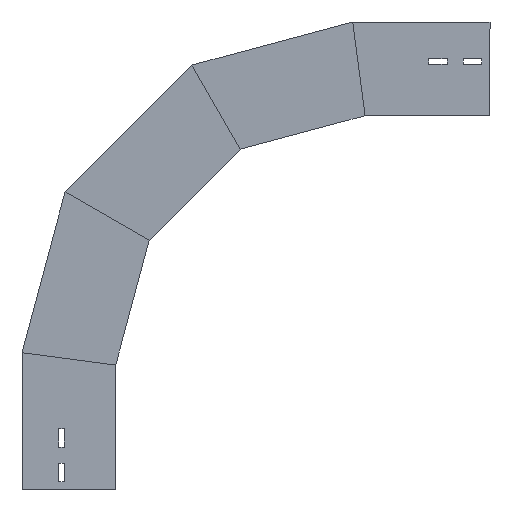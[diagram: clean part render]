
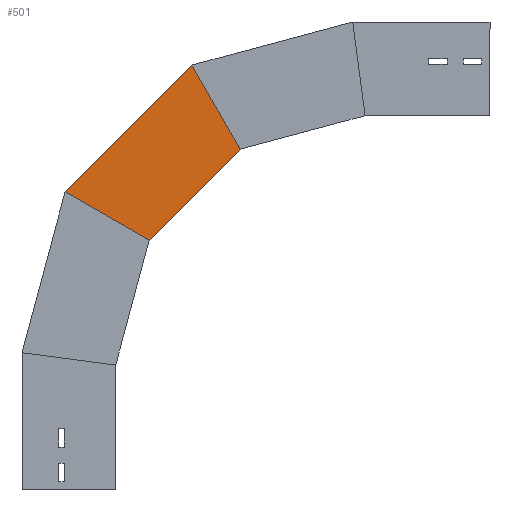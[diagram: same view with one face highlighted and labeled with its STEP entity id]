
A CAD part, left-side view. The second image highlights one B-rep face of the part: STEP entity #501.
In plain terms, the highlighted planar face has unit normal (-1, 0, 0) as drawn and (1, 0, 0) by its records, which use the part's own axes.
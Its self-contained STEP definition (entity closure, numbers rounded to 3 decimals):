
#101 = VECTOR ( 'NONE', #984, 1000. ) ;
#107 = DIRECTION ( 'NONE',  ( 0., 0., -1. ) ) ;
#111 = ORIENTED_EDGE ( 'NONE', *, *, #131, .F. ) ;
#131 = EDGE_CURVE ( 'NONE', #1518, #516, #1030, .T. ) ;
#221 = VECTOR ( 'NONE', #583, 1000. ) ;
#274 = VERTEX_POINT ( 'NONE', #1478 ) ;
#412 = DIRECTION ( 'NONE',  ( 0., -0.707, 0.707 ) ) ;
#477 = VECTOR ( 'NONE', #1654, 1000. ) ;
#501 = ADVANCED_FACE ( 'NONE', ( #1118 ), #851, .T. ) ;
#516 = VERTEX_POINT ( 'NONE', #1587 ) ;
#540 = LINE ( 'NONE', #817, #101 ) ;
#543 = CARTESIAN_POINT ( 'NONE',  ( 0., 62.95, 355.751 ) ) ;
#550 = EDGE_CURVE ( 'NONE', #1750, #274, #980, .T. ) ;
#583 = DIRECTION ( 'NONE',  ( 0., -0.707, 0.707 ) ) ;
#817 = CARTESIAN_POINT ( 'NONE',  ( 0., -78.533, 277.539 ) ) ;
#851 = PLANE ( 'NONE',  #1100 ) ;
#905 = CARTESIAN_POINT ( 'NONE',  ( 0., -174.081, 367.123 ) ) ;
#980 = LINE ( 'NONE', #543, #1272 ) ;
#984 = DIRECTION ( 'NONE',  ( 0., -0.866, -0.5 ) ) ;
#1030 = LINE ( 'NONE', #1608, #221 ) ;
#1053 = CARTESIAN_POINT ( 'NONE',  ( 0., -40.117, 299.719 ) ) ;
#1100 = AXIS2_PLACEMENT_3D ( 'NONE', #1137, #1413, #107 ) ;
#1118 = FACE_OUTER_BOUND ( 'NONE', #1700, .T. ) ;
#1122 = EDGE_CURVE ( 'NONE', #274, #516, #1204, .T. ) ;
#1137 = CARTESIAN_POINT ( 'NONE',  ( 0., -16.599, 276.201 ) ) ;
#1204 = LINE ( 'NONE', #905, #477 ) ;
#1221 = ORIENTED_EDGE ( 'NONE', *, *, #1122, .T. ) ;
#1272 = VECTOR ( 'NONE', #412, 1000. ) ;
#1323 = EDGE_CURVE ( 'NONE', #1750, #1518, #540, .T. ) ;
#1390 = ORIENTED_EDGE ( 'NONE', *, *, #550, .T. ) ;
#1413 = DIRECTION ( 'NONE',  ( 1., 0., 0. ) ) ;
#1478 = CARTESIAN_POINT ( 'NONE',  ( 0., -91.484, 510.185 ) ) ;
#1518 = VERTEX_POINT ( 'NONE', #1053 ) ;
#1545 = CARTESIAN_POINT ( 'NONE',  ( 0., 60.748, 357.953 ) ) ;
#1587 = CARTESIAN_POINT ( 'NONE',  ( 0., -149.719, 409.32 ) ) ;
#1608 = CARTESIAN_POINT ( 'NONE',  ( 0., -16.599, 276.201 ) ) ;
#1654 = DIRECTION ( 'NONE',  ( 0., -0.5, -0.866 ) ) ;
#1700 = EDGE_LOOP ( 'NONE', ( #1390, #1221, #111, #1803 ) ) ;
#1750 = VERTEX_POINT ( 'NONE', #1545 ) ;
#1803 = ORIENTED_EDGE ( 'NONE', *, *, #1323, .F. ) ;
